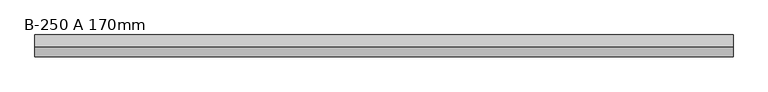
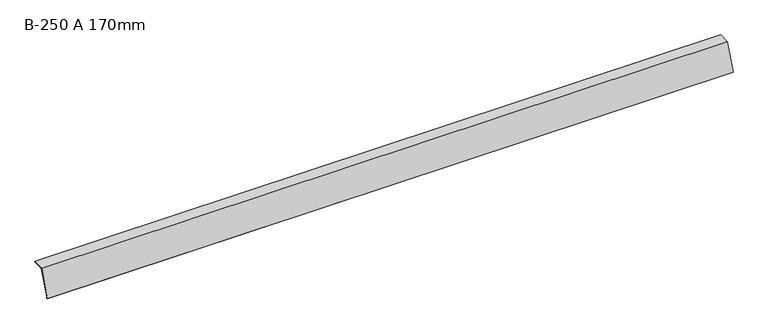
"""IFC4 building model written with IfcOpenShell, lengths in millimetres: proxy geometry, GROVIK_Flashing_Eaves : B-250 A 170mm."""

from ifc_helpers import new_model, si_unit, frame, origin, place, context, project, spatial, polyline, outline, extrude, source, transform, mapped, element, save


def b_250_a_170mm_6450933a(model_context):
    return source(origin(), model_context, "Body", "SweptSolid", [
        extrude(outline(polyline([(-0.6918582, 0.9880759), (-61.4967036, -157.413962), (-51.7937464, -154.9947431), (-51.5518245, -155.9650388), (-63.1187025, -158.8489854), (-1.3837164, 1.9761518), (68.9545862, 3.2039114), (68.9720386, 2.2040637), (-0.6918582, 0.9880759)])), frame((0.0, 0.0, 0.0), z_axis=(1.0, 0.0, 0.0), x_axis=(0.0, 1.0, 0.0)), (0.0, 0.0, 1.0), 4200.0),
    ])


if __name__ == "__main__":
    model = new_model("IFC4")
    model_context = context("Model", 3, world=origin())
    ifc_project = project(units=[si_unit("LENGTHUNIT", "METRE", prefix="MILLI")], contexts=[model_context])
    site = spatial("IfcSite", under=ifc_project)
    building = spatial("IfcBuilding", under=site)
    placement = place(None, origin())
    b_250_a_170mm_shape = b_250_a_170mm_6450933a(model_context)
    element("IfcBuildingElementProxy", 1, Name="GROVIK_Flashing_Eaves : B-250 A 170mm", ObjectType="GROVIK_Flashing_Eaves : B-250 A 170mm", at=placement, inside=building, context=model_context, shape_type="MappedRepresentation", body=[
        mapped(b_250_a_170mm_shape, transform((0.0, 0.0, 0.0), x_axis=(1.0, 0.0, 0.0), y_axis=(0.0, 1.0, 0.0), z_axis=(0.0, 0.0, 1.0))),
    ])
    save(model, "model.ifc")
